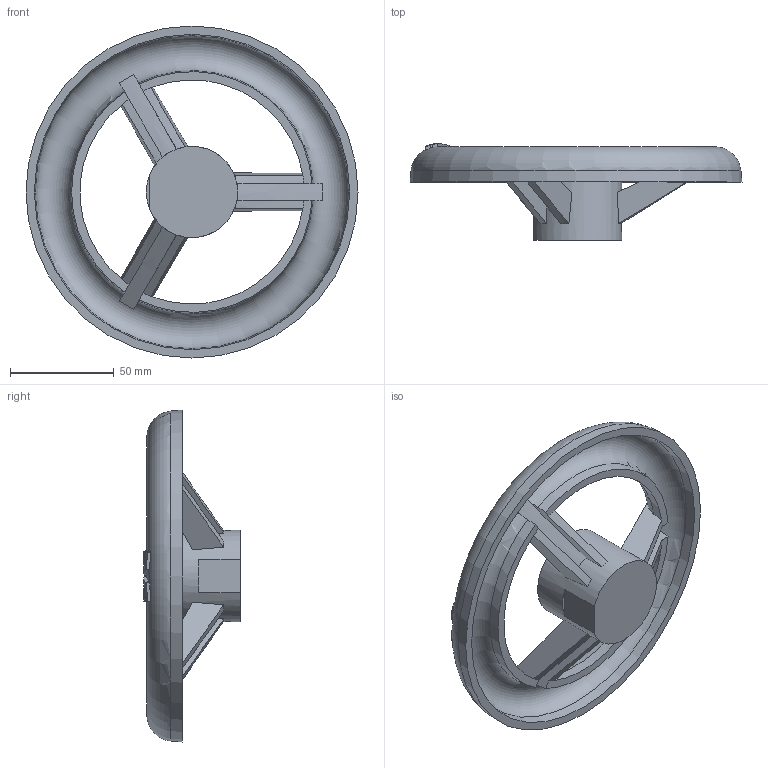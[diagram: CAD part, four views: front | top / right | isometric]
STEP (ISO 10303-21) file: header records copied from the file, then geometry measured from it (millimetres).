
FILE_DESCRIPTION (( 'STEP AP203' ), '1' );
FILE_NAME ('O_08_66_DN080_AA0.step', '2018-07-17T10:46:44', ( 'Windows User' ), ( 'AVK' ), 'SwSTEP 2.0', 'SolidWorks 2012', '' );
FILE_SCHEMA (( 'CONFIG_CONTROL_DESIGN' ));
Length unit declared in the file: millimetre
Products named in the file (1): O_08_66_DN080_AA0
Bounding box: 160 x 46.5 x 160 mm (x, y, z)
Volume: 143392.5 mm3; surface area: 54850.2 mm2
Topology: 1 solids, 1 shells, 154 faces, 416 edges, 268 vertices
Faces by surface type: plane 63, bspline 51, cone 32, torus 6, cylinder 2
Full cylindrical faces by diameter (mm): 16 x1, 44 x1
Entity records: 7766 total; most frequent: CARTESIAN_POINT 4489, ORIENTED_EDGE 812, DIRECTION 412, EDGE_CURVE 406, VERTEX_POINT 264, B_SPLINE_CURVE_WITH_KNOTS 250, EDGE_LOOP 170, FACE_OUTER_BOUND 158
